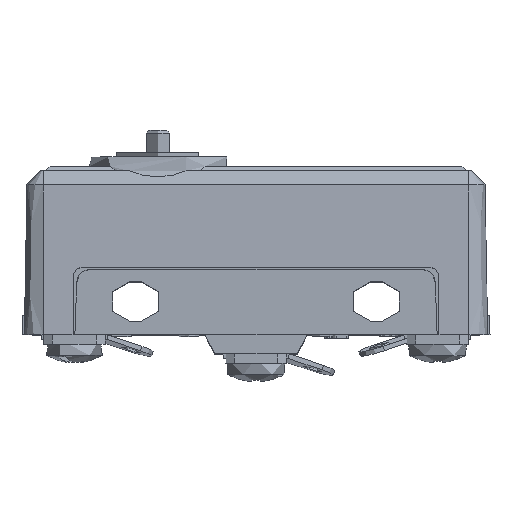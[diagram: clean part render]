
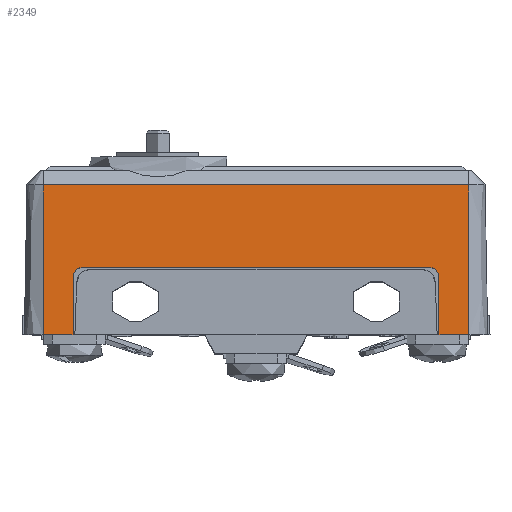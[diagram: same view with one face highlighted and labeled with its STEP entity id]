
A CAD part, top view. The second image highlights one B-rep face of the part: STEP entity #2349.
In plain terms, the highlighted planar face has unit normal (0, 0.018, 1).
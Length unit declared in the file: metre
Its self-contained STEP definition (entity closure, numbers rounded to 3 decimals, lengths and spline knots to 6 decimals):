
#50=CARTESIAN_POINT('',(-0.0261,-0.004367,0.057942));
#51=VERTEX_POINT('',#50);
#54=CARTESIAN_POINT('',(-0.0261,-0.004367,0.057942));
#55=DIRECTION('',(0.,1.,-0.017));
#56=VECTOR('',#55,1.);
#57=LINE('',#54,#56);
#58=CARTESIAN_POINT('',(-0.0261,-0.010566,0.05805));
#59=VERTEX_POINT('',#58);
#60=EDGE_CURVE('',#59,#51,#57,.T.);
#100=CARTESIAN_POINT('',(-0.0251,-0.003367,0.057924));
#101=VERTEX_POINT('',#100);
#104=CARTESIAN_POINT('',(-0.0251,-0.004367,0.057942));
#105=DIRECTION('',(0.,-0.017,-1.));
#106=DIRECTION('',(1.,0.,0.));
#107=AXIS2_PLACEMENT_3D('',#104,#105,#106);
#108=ELLIPSE('',#107,0.001,0.001);
#109=EDGE_CURVE('',#51,#101,#108,.T.);
#140=CARTESIAN_POINT('',(0.012,-0.003367,0.057924));
#141=VERTEX_POINT('',#140);
#144=CARTESIAN_POINT('',(0.012,-0.003367,0.057924));
#145=DIRECTION('',(1.,0.,0.));
#146=VECTOR('',#145,1.);
#147=LINE('',#144,#146);
#148=EDGE_CURVE('',#101,#141,#147,.T.);
#181=CARTESIAN_POINT('',(0.013,-0.010566,0.05805));
#182=VERTEX_POINT('',#181);
#185=CARTESIAN_POINT('',(0.013,-0.010566,0.05805));
#186=DIRECTION('',(0.,-1.,0.017));
#187=VECTOR('',#186,1.);
#188=LINE('',#185,#187);
#189=CARTESIAN_POINT('',(0.013,-0.004367,0.057942));
#190=VERTEX_POINT('',#189);
#191=EDGE_CURVE('',#190,#182,#188,.T.);
#830=CARTESIAN_POINT('',(0.0162,-0.010566,0.05805));
#831=VERTEX_POINT('',#830);
#847=CARTESIAN_POINT('',(0.0162,0.005434,0.057771));
#848=VERTEX_POINT('',#847);
#851=CARTESIAN_POINT('',(0.0162,-0.010566,0.05805));
#852=DIRECTION('',(0.,-1.,0.017));
#853=VECTOR('',#852,1.);
#854=LINE('',#851,#853);
#855=EDGE_CURVE('',#848,#831,#854,.T.);
#918=CARTESIAN_POINT('',(-0.0293,0.005434,0.057771));
#919=VERTEX_POINT('',#918);
#983=CARTESIAN_POINT('',(0.0162,0.005434,0.057771));
#984=DIRECTION('',(-1.,0.,0.));
#985=VECTOR('',#984,1.);
#986=LINE('',#983,#985);
#987=EDGE_CURVE('',#848,#919,#986,.T.);
#2037=CARTESIAN_POINT('',(-0.0293,-0.010566,0.05805));
#2038=DIRECTION('',(-1.,0.,0.));
#2039=VECTOR('',#2038,1.);
#2040=LINE('',#2037,#2039);
#2041=EDGE_CURVE('',#831,#182,#2040,.T.);
#2305=CARTESIAN_POINT('',(0.012,-0.004367,0.057942));
#2306=DIRECTION('',(0.,-0.017,-1.));
#2307=DIRECTION('',(1.,0.,0.));
#2308=AXIS2_PLACEMENT_3D('',#2305,#2306,#2307);
#2309=ELLIPSE('',#2308,0.001,0.001);
#2310=EDGE_CURVE('',#141,#190,#2309,.T.);
#2324=CARTESIAN_POINT('',(-0.0293,-0.010566,0.05805));
#2325=DIRECTION('',(0.,0.017,1.));
#2326=DIRECTION('',(0.,-1.,0.017));
#2327=AXIS2_PLACEMENT_3D('',#2324,#2325,#2326);
#2328=PLANE('',#2327);
#2329=ORIENTED_EDGE('',*,*,#2310,.T.);
#2330=ORIENTED_EDGE('',*,*,#191,.T.);
#2331=ORIENTED_EDGE('',*,*,#2041,.F.);
#2332=ORIENTED_EDGE('',*,*,#855,.F.);
#2333=ORIENTED_EDGE('',*,*,#987,.T.);
#2334=CARTESIAN_POINT('',(-0.0293,-0.010566,0.05805));
#2335=DIRECTION('',(0.,-1.,0.017));
#2336=VECTOR('',#2335,1.);
#2337=LINE('',#2334,#2336);
#2338=CARTESIAN_POINT('',(-0.0293,-0.010566,0.05805));
#2339=VERTEX_POINT('',#2338);
#2340=EDGE_CURVE('',#919,#2339,#2337,.T.);
#2341=ORIENTED_EDGE('',*,*,#2340,.T.);
#2342=EDGE_CURVE('',#59,#2339,#2040,.T.);
#2343=ORIENTED_EDGE('',*,*,#2342,.F.);
#2344=ORIENTED_EDGE('',*,*,#60,.T.);
#2345=ORIENTED_EDGE('',*,*,#109,.T.);
#2346=ORIENTED_EDGE('',*,*,#148,.T.);
#2347=EDGE_LOOP('',(#2329,#2330,#2331,#2332,#2333,#2341,#2343,#2344,#2345,#2346));
#2348=FACE_BOUND('',#2347,.T.);
#2349=ADVANCED_FACE('',(#2348),#2328,.T.);
